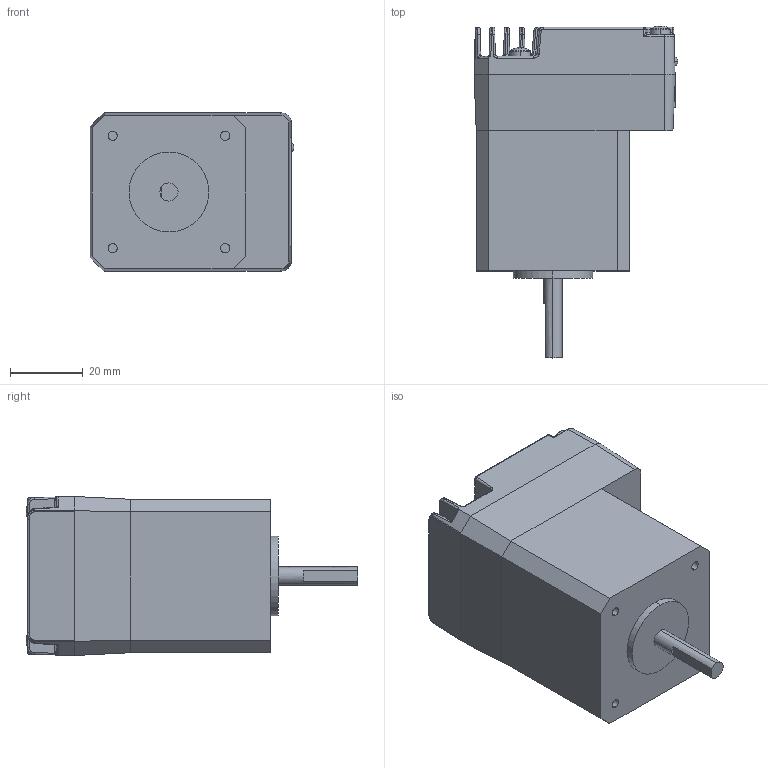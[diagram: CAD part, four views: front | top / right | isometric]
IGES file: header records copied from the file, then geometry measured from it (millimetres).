
Start section:  PTC IGES file: cu_ism-7400.igs
Global section: file name: cu_ism-7400.igs; native system: Pro/ENGINEER by Parametric Technology Corporation; preprocessor: 2011490; author: jbuhisan; organization: Unknown; date: 20130926.103420; units: inch
Bounding box: 56.18 x 91.45 x 43.82 mm (x, y, z)
Surface area: 38329.4 mm2 (no closed solid volume)
Topology: 0 solids, 0 shells, 1869 faces, 10053 edges, 10014 vertices
Faces by surface type: bspline 1426, revolution 443
